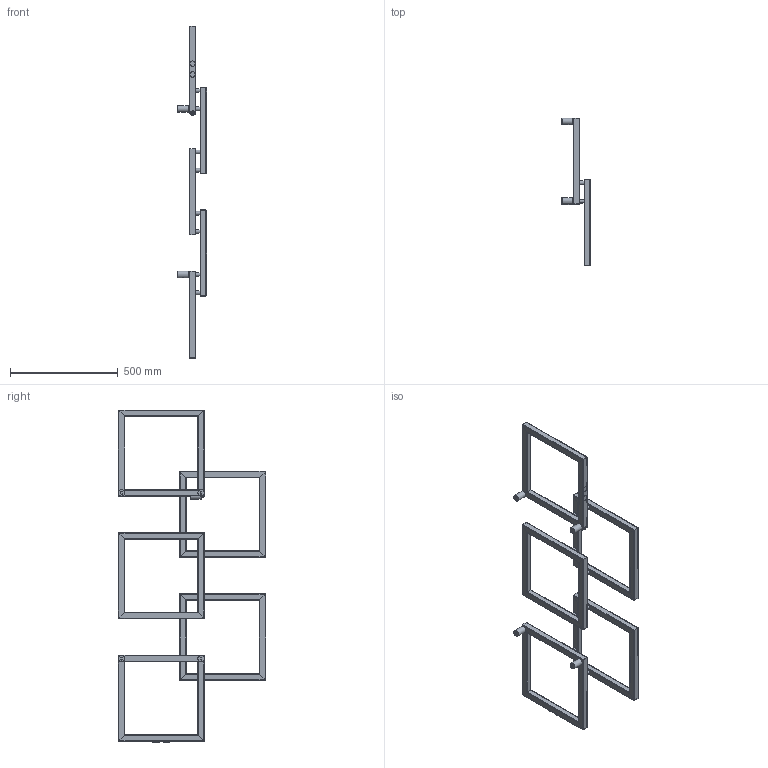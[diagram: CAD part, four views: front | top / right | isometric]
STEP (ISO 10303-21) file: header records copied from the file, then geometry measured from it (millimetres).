
FILE_DESCRIPTION( ( 'Unknown' ), '1' );
FILE_NAME( 'V:/DESIGN PROGRAM/LOCO/STP/LOCO 5 LEWY.stp', 'Unknown', ( 'Unknown' ), ( 'Unknown' ), 'PSStep 10.1', 'Unknown', ' ' );
FILE_SCHEMA( ( 'AUTOMOTIVE_DESIGN { 1 0 10303 214 1 1 1 1 }' ) );
Length unit declared in the file: millimetre
Products named in the file (14): Ramka 2 LEWA; Ramka 3; Assem1; Ramka 1 LEWY; czêœæ 1; czêœæ 2; czêœæ 3; czêœæ 4; czêœæ 5; czêœæ 6; ｳｹcznik ; tuleja wieszaka; Zaslepka fi 30 z gwintem ; sworzen wieszaka
Bounding box: 135 x 685 x 1543 mm (x, y, z)
Volume: 2505197 mm3; surface area: 3191544.8 mm2
Topology: 60 solids, 60 shells, 907 faces, 2351 edges, 1578 vertices
Faces by surface type: plane 482, cylinder 414, torus 6, bspline 5
Full cylindrical faces by diameter (mm): 4.917 x5, 12.5 x9, 15.5 x9, 16.3 x9, 16.5 x29, 17.2 x9, 18.631 x3, 20 x5, 22 x5, 25 x3, 25.25 x6, 29 x3, 30 x5
Entity records: 6363 total; most frequent: CARTESIAN_POINT 1043, DIRECTION 866, ORIENTED_EDGE 730, EDGE_CURVE 365, AXIS2_PLACEMENT_3D 326, VERTEX_POINT 255, LINE 214, VECTOR 214
